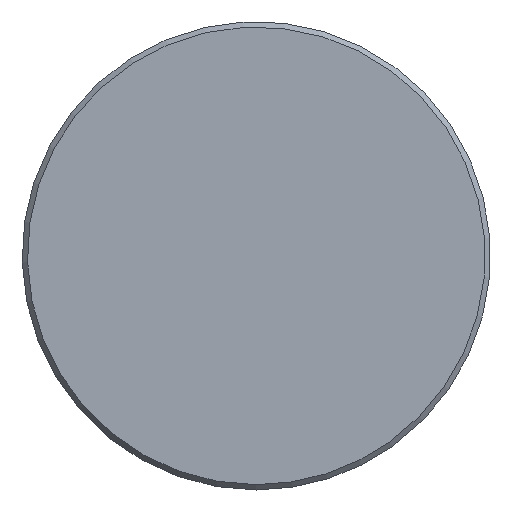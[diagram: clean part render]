
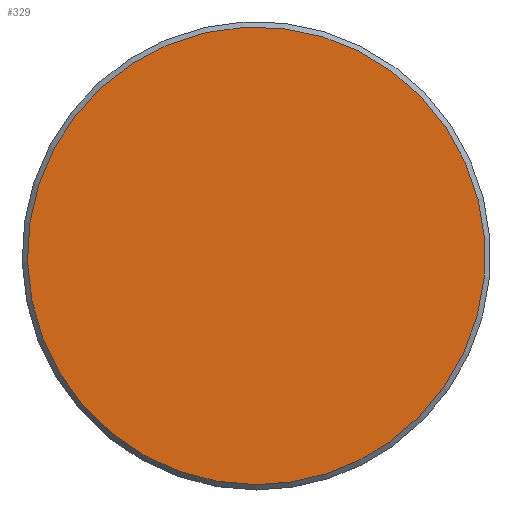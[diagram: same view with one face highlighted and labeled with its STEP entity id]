
A CAD part, left-side view. The second image highlights one B-rep face of the part: STEP entity #329.
In plain terms, the highlighted planar face has unit normal (-1, 0, 0).
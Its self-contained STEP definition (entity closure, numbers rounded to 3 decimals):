
#60=FACE_OUTER_BOUND('',#82,.T.);
#82=EDGE_LOOP('',(#240,#241));
#113=CIRCLE('',#387,40.5);
#114=CIRCLE('',#388,40.5);
#140=VERTEX_POINT('',#589);
#141=VERTEX_POINT('',#591);
#176=EDGE_CURVE('',#141,#140,#113,.T.);
#177=EDGE_CURVE('',#140,#141,#114,.T.);
#240=ORIENTED_EDGE('',*,*,#176,.T.);
#241=ORIENTED_EDGE('',*,*,#177,.T.);
#292=PLANE('',#389);
#329=ADVANCED_FACE('',(#60),#292,.T.);
#387=AXIS2_PLACEMENT_3D('',#592,#462,#463);
#388=AXIS2_PLACEMENT_3D('',#593,#464,#465);
#389=AXIS2_PLACEMENT_3D('',#594,#466,#467);
#462=DIRECTION('center_axis',(-1.,0.,0.));
#463=DIRECTION('ref_axis',(0.,0.,1.));
#464=DIRECTION('center_axis',(-1.,0.,0.));
#465=DIRECTION('ref_axis',(0.,0.,1.));
#466=DIRECTION('center_axis',(-1.,0.,0.));
#467=DIRECTION('ref_axis',(0.,1.,0.));
#589=CARTESIAN_POINT('',(-525.136,-511.644,-32.96));
#591=CARTESIAN_POINT('',(-525.136,-488.109,-40.5));
#592=CARTESIAN_POINT('Origin',(-525.136,-488.109,0.));
#593=CARTESIAN_POINT('Origin',(-525.136,-488.109,0.));
#594=CARTESIAN_POINT('Origin',(-525.136,-569.109,81.));
